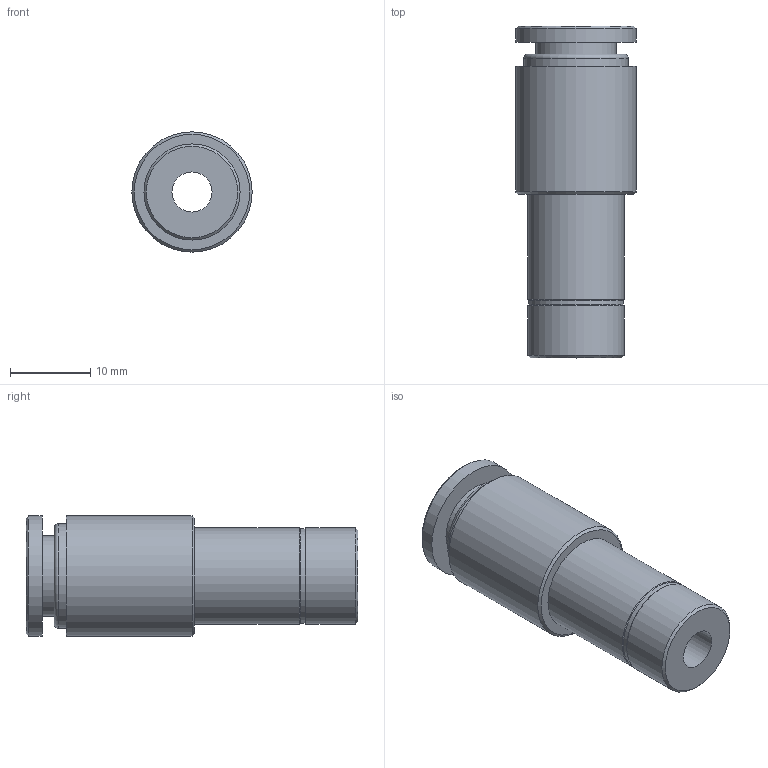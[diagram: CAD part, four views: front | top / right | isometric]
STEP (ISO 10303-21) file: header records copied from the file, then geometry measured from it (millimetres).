
FILE_DESCRIPTION(/* description */ (''),/* implementation_level */ '2;1');
FILE_NAME(/* name */ 'LXH66 1208 00.stp',/* time_stamp */ '2026-04-19T15:15:52+02:00',/* author */ ('freju'),/* organization */ (''),/* preprocessor_version */ 'ST-DEVELOPER v20.1',/* originating_system */ 'Autodesk Inventor 2026',/* authorisation */ '');
FILE_SCHEMA (('AUTOMOTIVE_DESIGN { 1 0 10303 214 3 1 1 }'));
Length unit declared in the file: millimetre
Products named in the file (1): LXH66 1208 00
Bounding box: 15 x 41.4 x 15 mm (x, y, z)
Volume: 4460.5 mm3; surface area: 3018.1 mm2
Topology: 1 solids, 1 shells, 22 faces, 45 edges, 30 vertices
Faces by surface type: cylinder 9, plane 7, torus 3, cone 3
Full cylindrical faces by diameter (mm): 5 x1, 8 x1, 10 x1, 11.8 x1, 12 x2, 13 x1, 15 x2
Entity records: 649 total; most frequent: DIRECTION 124, CARTESIAN_POINT 98, ORIENTED_EDGE 90, AXIS2_PLACEMENT_3D 56, EDGE_CURVE 45, CIRCLE 33, VERTEX_POINT 30, EDGE_LOOP 29
